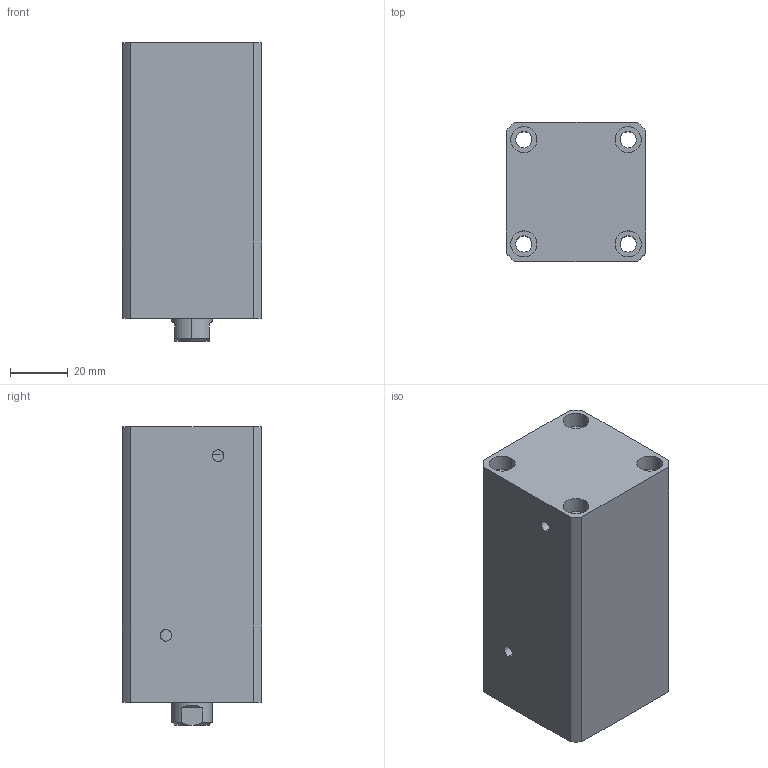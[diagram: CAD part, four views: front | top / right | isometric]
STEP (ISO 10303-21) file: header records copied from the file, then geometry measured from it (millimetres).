
FILE_DESCRIPTION (( 'STEP AP214' ), '1' );
FILE_NAME ('chtb-sdma25x50n_asm.STEP', '2018-05-22T07:07:09', ( 'Windows' ), ( 'Microsoft' ), 'SwSTEP 2.0', 'SolidWorks 2015', '' );
FILE_SCHEMA (( 'AUTOMOTIVE_DESIGN' ));
Length unit declared in the file: millimetre
Products named in the file (4): chtb-sdma25x50n_asm; CHTB-SDMA25X50NHSG; CHTB-SDMA25X50NBT; CHTB-25QG
Assembly tree (3 placements, depth 2):
  chtb-sdma25x50n_asm
    CHTB-25QG
    CHTB-SDMA25X50NBT
    CHTB-SDMA25X50NHSG
Bounding box: 48 x 48 x 103 mm (x, y, z)
Volume: 187205.6 mm3; surface area: 49303.5 mm2
Topology: 3 solids, 3 shells, 142 faces, 379 edges, 257 vertices
Faces by surface type: cylinder 89, plane 34, bspline 10, cone 9
Entity records: 8020 total; most frequent: CARTESIAN_POINT 4393, ORIENTED_EDGE 746, DIRECTION 661, EDGE_CURVE 373, AXIS2_PLACEMENT_3D 272, VERTEX_POINT 257, EDGE_LOOP 180, ADVANCED_FACE 142
